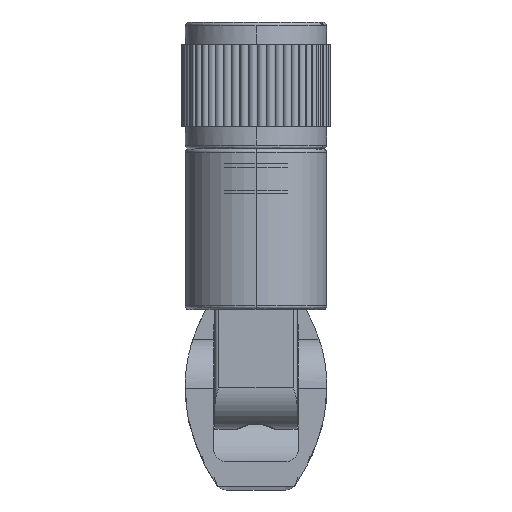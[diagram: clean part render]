
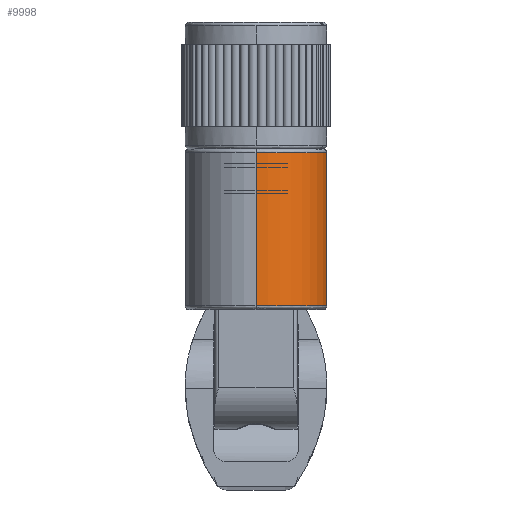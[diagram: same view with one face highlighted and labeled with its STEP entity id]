
A CAD part, top view. The second image highlights one B-rep face of the part: STEP entity #9998.
In plain terms, the highlighted cylindrical face has radius 5.7 mm (diameter 11.4 mm), a partial arc.
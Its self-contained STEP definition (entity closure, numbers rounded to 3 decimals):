
#25 = VECTOR ( 'NONE', #8147, 1000. ) ;
#150 = ORIENTED_EDGE ( 'NONE', *, *, #4886, .T. ) ;
#418 = CARTESIAN_POINT ( 'NONE',  ( 0., -5.696, 0.107 ) ) ;
#987 = AXIS2_PLACEMENT_3D ( 'NONE', #11893, #9986, #7155 ) ;
#1231 = FACE_OUTER_BOUND ( 'NONE', #8976, .T. ) ;
#2988 = VERTEX_POINT ( 'NONE', #8299 ) ;
#3837 = LINE ( 'NONE', #7996, #25 ) ;
#4280 = EDGE_CURVE ( 'NONE', #5566, #11940, #7140, .T. ) ;
#4748 = DIRECTION ( 'NONE',  ( 0., 0., -1. ) ) ;
#4886 = EDGE_CURVE ( 'NONE', #2988, #11730, #9674, .T. ) ;
#5001 = DIRECTION ( 'NONE',  ( 0., 1., 0. ) ) ;
#5003 = ORIENTED_EDGE ( 'NONE', *, *, #6077, .F. ) ;
#5436 = DIRECTION ( 'NONE',  ( 0., 0., 1. ) ) ;
#5566 = VERTEX_POINT ( 'NONE', #418 ) ;
#5602 = DIRECTION ( 'NONE',  ( 0., 1., 0. ) ) ;
#6077 = EDGE_CURVE ( 'NONE', #2988, #11940, #9050, .T. ) ;
#6677 = CYLINDRICAL_SURFACE ( 'NONE', #987, 5.7 ) ;
#6901 = DIRECTION ( 'NONE',  ( 0., 0., -1. ) ) ;
#7140 = CIRCLE ( 'NONE', #10387, 5.7 ) ;
#7155 = DIRECTION ( 'NONE',  ( 0., 1., 0. ) ) ;
#7517 = ORIENTED_EDGE ( 'NONE', *, *, #4280, .T. ) ;
#7780 = AXIS2_PLACEMENT_3D ( 'NONE', #10761, #6901, #5001 ) ;
#7996 = CARTESIAN_POINT ( 'NONE',  ( 0., -5.696, -1.693 ) ) ;
#8147 = DIRECTION ( 'NONE',  ( 0., 0., -1. ) ) ;
#8299 = CARTESIAN_POINT ( 'NONE',  ( 0., 5.704, 12.407 ) ) ;
#8388 = EDGE_CURVE ( 'NONE', #11730, #5566, #3837, .T. ) ;
#8596 = CARTESIAN_POINT ( 'NONE',  ( 0., -5.696, 12.407 ) ) ;
#8976 = EDGE_LOOP ( 'NONE', ( #150, #11200, #7517, #5003 ) ) ;
#9050 = LINE ( 'NONE', #10341, #10834 ) ;
#9376 = CARTESIAN_POINT ( 'NONE',  ( 0., 0.004, 0.107 ) ) ;
#9674 = CIRCLE ( 'NONE', #7780, 5.7 ) ;
#9986 = DIRECTION ( 'NONE',  ( 0., 0., -1. ) ) ;
#9998 = ADVANCED_FACE ( 'NONE', ( #1231 ), #6677, .T. ) ;
#10341 = CARTESIAN_POINT ( 'NONE',  ( 0., 5.704, -1.693 ) ) ;
#10387 = AXIS2_PLACEMENT_3D ( 'NONE', #9376, #5436, #5602 ) ;
#10761 = CARTESIAN_POINT ( 'NONE',  ( 0., 0.004, 12.407 ) ) ;
#10827 = CARTESIAN_POINT ( 'NONE',  ( 0., 5.704, 0.107 ) ) ;
#10834 = VECTOR ( 'NONE', #4748, 1000. ) ;
#11200 = ORIENTED_EDGE ( 'NONE', *, *, #8388, .T. ) ;
#11730 = VERTEX_POINT ( 'NONE', #8596 ) ;
#11893 = CARTESIAN_POINT ( 'NONE',  ( 0., 0.004, -1.693 ) ) ;
#11940 = VERTEX_POINT ( 'NONE', #10827 ) ;
